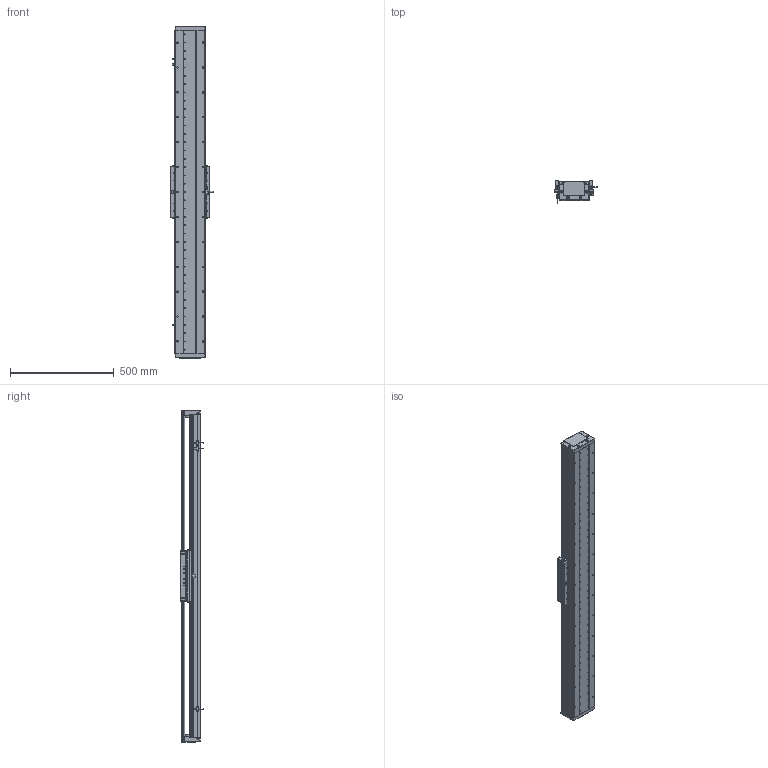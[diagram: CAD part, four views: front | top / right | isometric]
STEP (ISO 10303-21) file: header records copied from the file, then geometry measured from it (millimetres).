
FILE_DESCRIPTION (( 'STEP AP203' ), '1' );
FILE_NAME ('DA-C145-C3-T1260-C010-0.2 眻盄萇儂.STEP', '2025-08-14T01:23:08', ( '' ), ( '' ), 'SwSTEP 2.0', 'SolidWorks 2019', '' );
FILE_SCHEMA (( 'CONFIG_CONTROL_DESIGN' ));
Length unit declared in the file: millimetre
Products named in the file (29): 葩璃 DA95-GT-T-00^IU-CU145-L 菁釱絳寢; 葩璃 DA145-T-003-00 裔啣^DA-C145-C3-T-C010-0.2; IU-CU145-L-00 菁釱(L1560); 葩璃 DMA-010-0.2 黍杅芛^DA-C145-C3-T-C010-0.2; 葩璃 CKM03-W060-C1C2-TP-0.2^DA-C145-C3-T-C010-0.2; 葩璃 DA95-HXJ-00 遣喳砎蝶^DA-C145-C3-T-C010-0.2; 葩璃 DA145-DG-H-N-00 傷裔^DA-C145-C3-T-C010-0.2; 复件 纯铜油杯 6x6mm^CU145-W 滚珠滑台; 复件 DA95-DB-00  挡板^CU145-W 滚珠滑台; 葩璃 XD-U-02L 棠掑喜^DA-C145-C3-T-C010-0.2; 葩璃 CKMA01-W060-TRL^DA-C145-C3-T-C010-0.2; 复件 半圆头内六角螺钉 M3×6^CU145-W 滚珠滑台; 复件 DA145-C3-YB-A-00 压板A^CU145-W 滚珠滑台; DA-C145-C3-T1260-C010-0.2 眻盄萇儂; 葩璃 DA145-C3-DP-A-00 菜えA^CU145-W 幗紩賑怢; 复件 内六角平端紧定螺钉 GB.T77-2000 M5×10^CU145-W 滚珠滑台; 复件 DA145-GYP-00 光电感应片^DA-C145-C3-T-C010-0.2; 葩璃 DA145-C3-DP-B-00 菜えB^CU145-W 幗紩賑怢; CU145-W-00 珨极趙賑雄怢啣; 复件 DA145-C3-DK-00 挡块^CU145-W 滚珠滑台; IU-CU145-L 菁釱絳寢; 葩璃 鞠褒情蹟譫 M3^DA-C145-C3-T-C010-0.2; 复件 DA145-C3-YB-B-00 压板B^CU145-W 滚珠滑台; 66245-CU145-HT-W-00 賑雄怢啣(3D芞祧)(00); 葩璃 PM-T45^DA-C145-C3-T-C010-0.2; TAY01-M8; CU145-W 幗紩賑怢; 复件 DA95-MFP-01 密封片^CU145-W 滚珠滑台; 复件 DA95-HK-GT-00 滑块钢轨^CU145-W-00 一体化滑动台板
Assembly tree (98 placements, depth 4):
  DA-C145-C3-T1260-C010-0.2 眻盄萇儂
    IU-CU145-L 菁釱絳寢
      IU-CU145-L-00 菁釱(L1560)
      葩璃 DA95-GT-T-00^IU-CU145-L 菁釱絳寢  x4
    CU145-W 幗紩賑怢
      CU145-W-00 珨极趙賑雄怢啣
        66245-CU145-HT-W-00 賑雄怢啣(3D芞祧)(00)
        复件 DA95-HK-GT-00 滑块钢轨^CU145-W-00 一体化滑动台板  x8
      复件 DA95-MFP-01 密封片^CU145-W 滚珠滑台  x8
      复件 DA95-DB-00  挡板^CU145-W 滚珠滑台  x8
      复件 内六角平端紧定螺钉 GB.T77-2000 M5×10^CU145-W 滚珠滑台  x4
      复件 纯铜油杯 6x6mm^CU145-W 滚珠滑台  x4
      复件 半圆头内六角螺钉 M3×6^CU145-W 滚珠滑台  x16
      复件 DA145-C3-DK-00 挡块^CU145-W 滚珠滑台  x4
      葩璃 DA145-C3-DP-B-00 菜えB^CU145-W 幗紩賑怢  x2
      复件 DA145-C3-YB-B-00 压板B^CU145-W 滚珠滑台  x2
      葩璃 DA145-C3-DP-A-00 菜えA^CU145-W 幗紩賑怢  x3
      复件 DA145-C3-YB-A-00 压板A^CU145-W 滚珠滑台  x3
      TAY01-M8  x4
    葩璃 CKMA01-W060-TRL^DA-C145-C3-T-C010-0.2
    葩璃 PM-T45^DA-C145-C3-T-C010-0.2  x3
    葩璃 XD-U-02L 棠掑喜^DA-C145-C3-T-C010-0.2
    葩璃 DA145-DG-H-N-00 傷裔^DA-C145-C3-T-C010-0.2  x2
    葩璃 DA145-T-003-00 裔啣^DA-C145-C3-T-C010-0.2
    葩璃 DA95-HXJ-00 遣喳砎蝶^DA-C145-C3-T-C010-0.2  x4
    复件 DA145-GYP-00 光电感应片^DA-C145-C3-T-C010-0.2
    葩璃 DMA-010-0.2 黍杅芛^DA-C145-C3-T-C010-0.2
    葩璃 CKM03-W060-C1C2-TP-0.2^DA-C145-C3-T-C010-0.2
    葩璃 鞠褒情蹟譫 M3^DA-C145-C3-T-C010-0.2  x8
Bounding box: 203.5 x 108.45 x 1600 mm (x, y, z)
Volume: 9439397.3 mm3; surface area: 2871164.2 mm2
Topology: 95 solids, 127 shells, 4161 faces, 11391 edges, 7072 vertices
Faces by surface type: cylinder 1862, plane 1583, cone 626, torus 86, sphere 4
Entity records: 103421 total; most frequent: CARTESIAN_POINT 28050, ORIENTED_EDGE 14780, DIRECTION 14645, EDGE_CURVE 7390, AXIS2_PLACEMENT_3D 5464, VERTEX_POINT 4761, VECTOR 3717, LINE 3717
